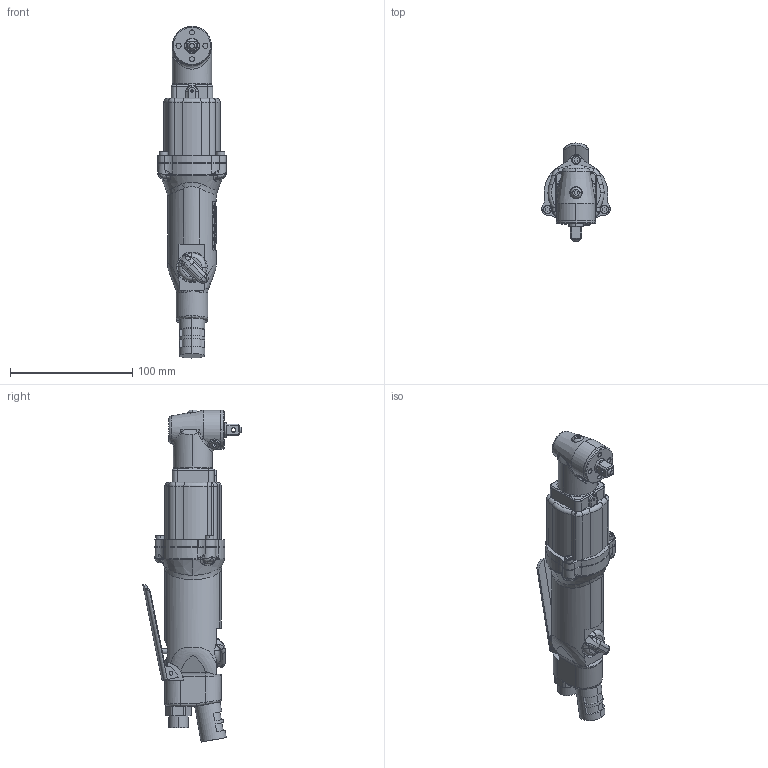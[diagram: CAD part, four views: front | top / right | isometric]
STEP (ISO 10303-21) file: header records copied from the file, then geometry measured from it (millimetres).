
FILE_DESCRIPTION (( 'STEP AP203' ), '1' );
FILE_NAME ('UX-500C.STEP', '2007-04-20T05:51:42', ( ' ' ), ( ' ' ), 'SwSTEP 2.0', 'SolidWorks 2003240', '' );
FILE_SCHEMA (( 'CONFIG_CONTROL_DESIGN' ));
Length unit declared in the file: millimetre
Products named in the file (9): 1794883_UX-500C_蹬怮椔; 1774399_UX-500C_蹬怮椔; UX-500C; 0084301_UX-500C_蹬怮椔; 1794413_UX-500C_蹬怮椔; PIN_UX-500C_蹬怮椔; 5001071_UX-500C_蹬怮椔; 1802122_UX-500C_蹬怮椔; 1770259_UX-500C_蹬怮椔
Assembly tree (8 placements, depth 2):
  UX-500C
    1794883_UX-500C_蹬怮椔
    1770259_UX-500C_蹬怮椔
    1794413_UX-500C_蹬怮椔
    1774399_UX-500C_蹬怮椔
    5001071_UX-500C_蹬怮椔
    0084301_UX-500C_蹬怮椔
    PIN_UX-500C_蹬怮椔
    1802122_UX-500C_蹬怮椔
Bounding box: 56.02 x 80.6 x 271.84 mm (x, y, z)
Volume: 358392.8 mm3; surface area: 59247.9 mm2
Topology: 10 solids, 10 shells, 892 faces, 2282 edges, 1441 vertices
Faces by surface type: plane 323, cylinder 284, bspline 202, torus 52, cone 27, sphere 4
Entity records: 91806 total; most frequent: CARTESIAN_POINT 70991, ORIENTED_EDGE 4500, DIRECTION 3615, EDGE_CURVE 2250, VERTEX_POINT 1441, AXIS2_PLACEMENT_3D 1370, EDGE_LOOP 961, ADVANCED_FACE 892
